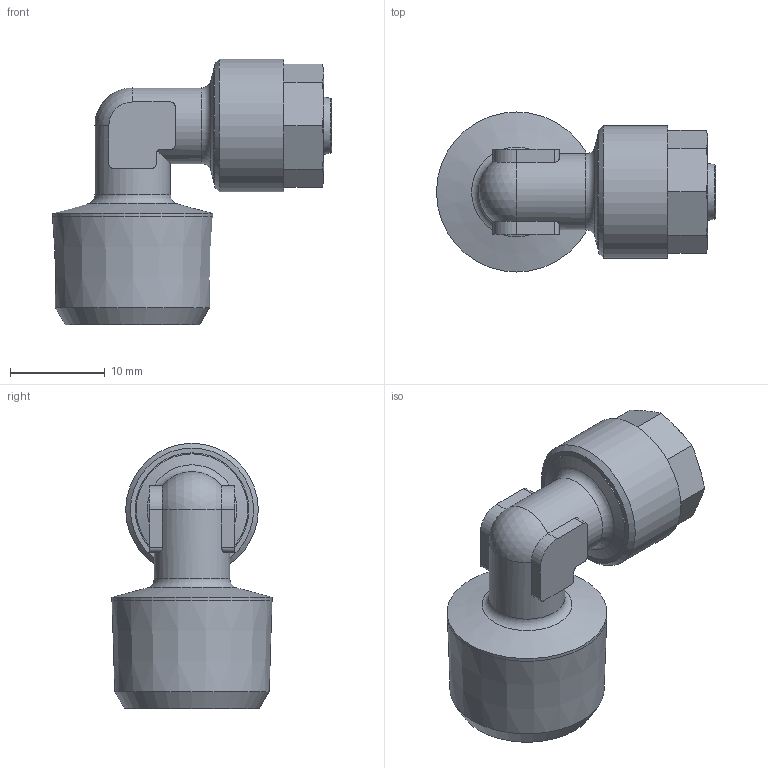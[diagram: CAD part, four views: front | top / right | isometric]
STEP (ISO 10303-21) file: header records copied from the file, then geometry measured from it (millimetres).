
FILE_DESCRIPTION(/* description */ (''),/* implementation_level */ '2;1');
FILE_NAME(/* name */ '11008_305_86_R38_18.07.17',/* time_stamp */ '2017-07-18T13:28:40+02:00',/* author */ (''),/* organization */ (''),/* preprocessor_version */ 'ST-DEVELOPER v16.5',/* originating_system */ 'HiCAD 2016 2102.2 Build 618',/* authorisation */ '');
FILE_SCHEMA (('AUTOMOTIVE_DESIGN { 1 0 10303 214 1 1 1 1 }'));
Length unit declared in the file: millimetre
Products named in the file (3): Root; R11008; 17006
Assembly tree (2 placements, depth 2):
  Root
    R11008
    17006
Bounding box: 29.45 x 16.89 x 28 mm (x, y, z)
Volume: 3552.2 mm3; surface area: 3689.4 mm2
Topology: 2 solids, 2 shells, 79 faces, 199 edges, 127 vertices
Faces by surface type: plane 29, cylinder 24, cone 21, torus 4, sphere 1
Full cylindrical faces by diameter (mm): 5 x2, 6.8 x1, 8 x3, 10.773 x1, 11 x1, 12 x1, 14 x1, 16.893 x1
Entity records: 5680 total; most frequent: CARTESIAN_POINT 2348, DIRECTION 384, PRESENTATION_STYLE_ASSIGNMENT 316, COLOUR_RGB 315, DRAUGHTING_PRE_DEFINED_CURVE_FONT 314, CURVE_STYLE 314, OVER_RIDING_STYLED_ITEM 314, ORIENTED_EDGE 314
